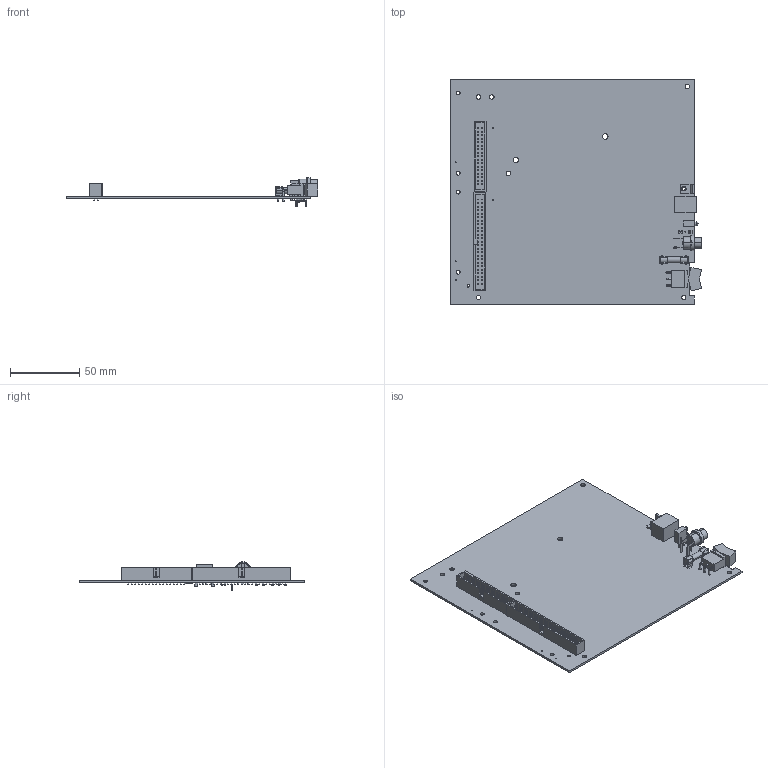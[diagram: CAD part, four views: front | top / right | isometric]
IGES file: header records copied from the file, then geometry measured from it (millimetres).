
Start section:  PTC IGES file: cu_usb_oem_6221-6251.igs
Global section: file name: cu_usb_oem_6221-6251.igs; native system: Pro/ENGINEER by Parametric Technology Corporation; preprocessor: 2006080; author: jpearson; organization: Unknown; date: 070829.134937; units: inch
Bounding box: 181.99 x 162.56 x 20.88 mm (x, y, z)
Surface area: 69119.8 mm2 (no closed solid volume)
Topology: 0 solids, 0 shells, 1301 faces, 6488 edges, 6478 vertices
Faces by surface type: bspline 1117, revolution 184
